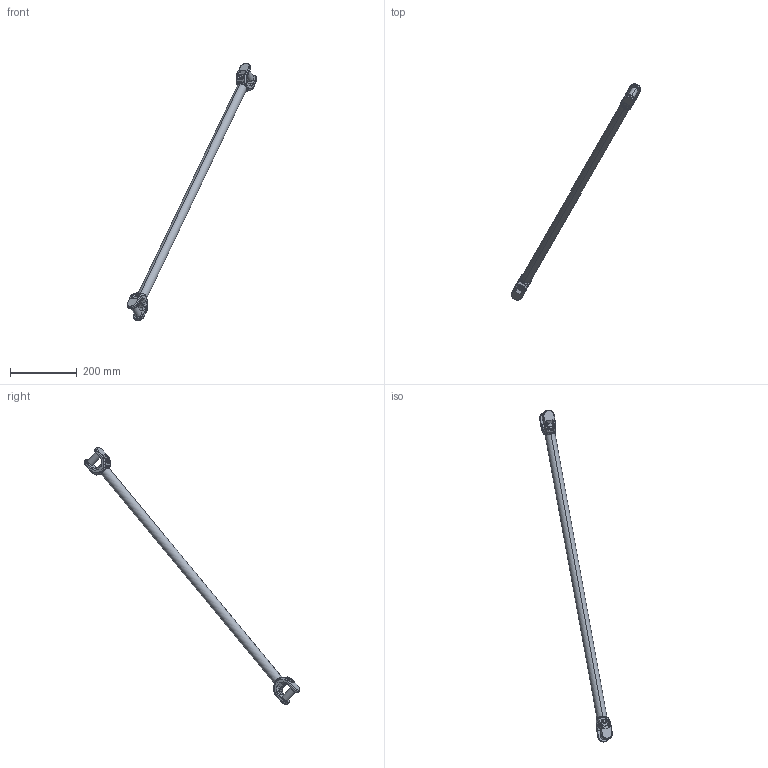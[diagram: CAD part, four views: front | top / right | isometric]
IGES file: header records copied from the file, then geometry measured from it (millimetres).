
Start section: SolidWorks IGES file using analytic representation for surfaces
Global section: file name: C:\Data\SAP_DOC_20200123_IRB390\Lättmodeller_IRB390\Final_4axis\IRB390_15kg_1300_STD_rev0_IGES_J\IRB390_X_1300_STD_LA2_1_00.IGS; native system: SolidWorks 2018; preprocessor: SolidWorks 2018; author: sestdan2; date: 200204.155935; units: millimetre
Bounding box: 388.49 x 645.74 x 769.72 mm (x, y, z)
Surface area: 113539.3 mm2 (no closed solid volume)
Topology: 0 solids, 0 shells, 436 faces, 4880 edges, 4880 vertices
Faces by surface type: revolution 226, bspline 210
